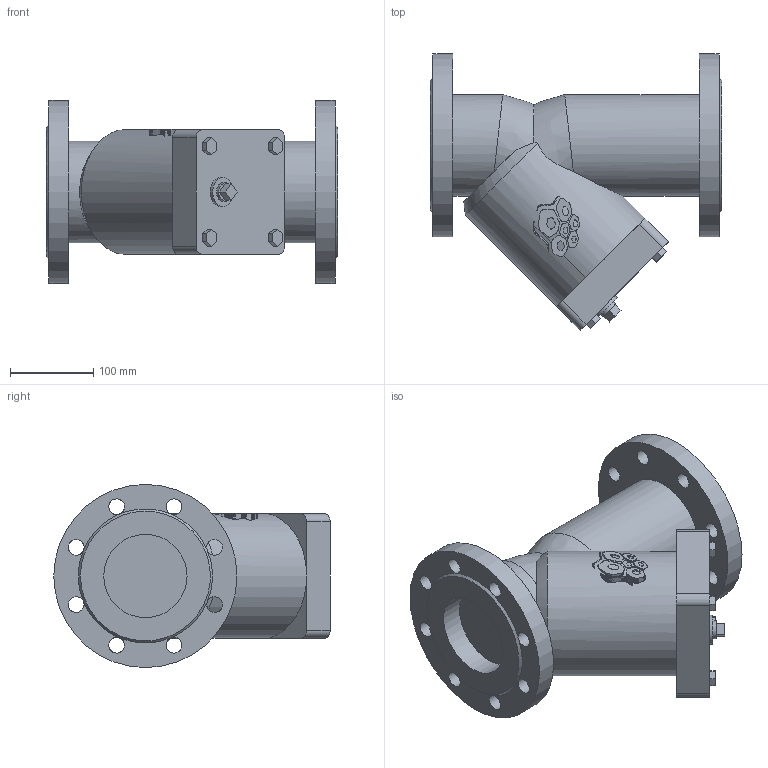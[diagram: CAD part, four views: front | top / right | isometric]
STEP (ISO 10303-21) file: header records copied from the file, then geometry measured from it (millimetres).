
FILE_DESCRIPTION(('STEP AP203'), '1');
FILE_NAME('3D_600_601-100-16_1,6', '', ('UNSPECIFIED'), ('UNSPECIFIED'), 'C3D Converter', 'C3D Toolkit', '');
FILE_SCHEMA(('CONFIG_CONTROL_DESIGN'));
Length unit declared in the file: millimetre
Bounding box: 350 x 332 x 220 mm (x, y, z)
Volume: 7991124.2 mm3; surface area: 407162.4 mm2
Topology: 1 solids, 1 shells, 914 faces, 2740 edges, 1837 vertices
Faces by surface type: plane 874, cylinder 35, cone 3, bspline 2
Full cylindrical faces by diameter (mm): 19 x16, 22 x1, 35 x1, 100 x2, 122 x2, 150 x1, 220 x2
Entity records: 38881 total; most frequent: CARTESIAN_POINT 9102, ORIENTED_EDGE 5416, DIRECTION 3821, EDGE_CURVE 2708, VERTEX_POINT 1834, LINE 1741, VECTOR 1741, AXIS2_PLACEMENT_3D 1040
